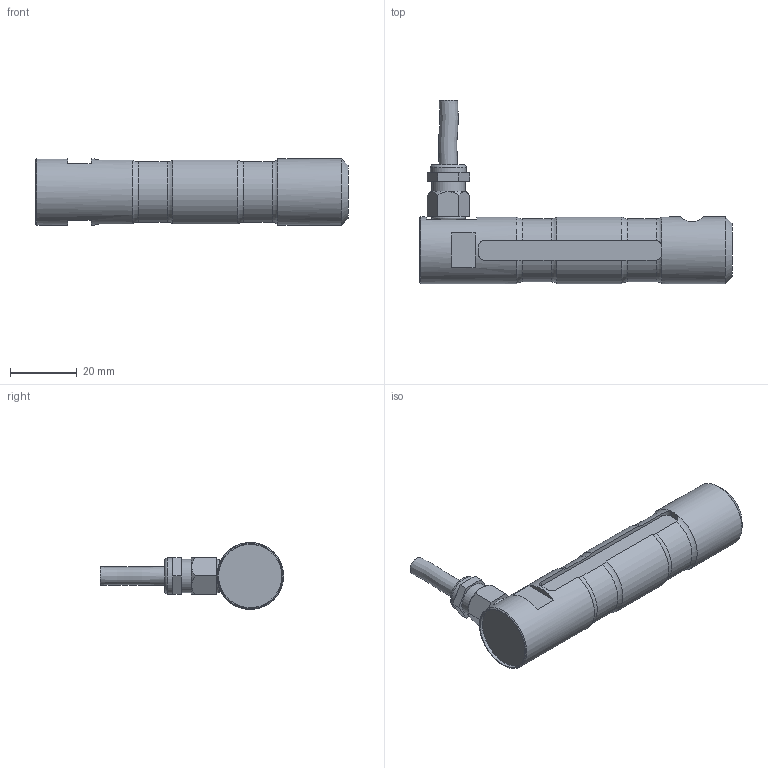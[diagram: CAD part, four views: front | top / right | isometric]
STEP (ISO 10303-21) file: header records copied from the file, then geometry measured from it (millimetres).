
FILE_DESCRIPTION(/* description */ ('Alibre Inc.'),/* implementation_level */ '2;1');
FILE_NAME(/* name */ 'export-3C95D31F-CE0D-455B-B114-B66FED309D7A',/* time_stamp */ '2023-04-12T14:11:31+02:00',/* author */ (''),/* organization */ (''),/* preprocessor_version */ 'ST-DEVELOPER v17',/* originating_system */ 'Alibre',/* authorisation */ '');
FILE_SCHEMA (('CONFIG_CONTROL_DESIGN'));
Length unit declared in the file: millimetre
Bounding box: 93.5 x 54.93 x 20 mm (x, y, z)
Volume: 28436.5 mm3; surface area: 8657.3 mm2
Topology: 4 solids, 4 shells, 83 faces, 196 edges, 128 vertices
Faces by surface type: plane 43, cylinder 23, torus 11, cone 5, bspline 1
Full cylindrical faces by diameter (mm): 5.5 x1, 7 x1, 8 x1, 10 x1, 10.8 x1, 19 x1, 20 x2
Entity records: 3112 total; most frequent: CARTESIAN_POINT 850, ORIENTED_EDGE 344, DIRECTION 286, EDGE_CURVE 172, AXIS2_PLACEMENT_3D 124, VERTEX_POINT 122, FACE_BOUND 110, EDGE_LOOP 109
